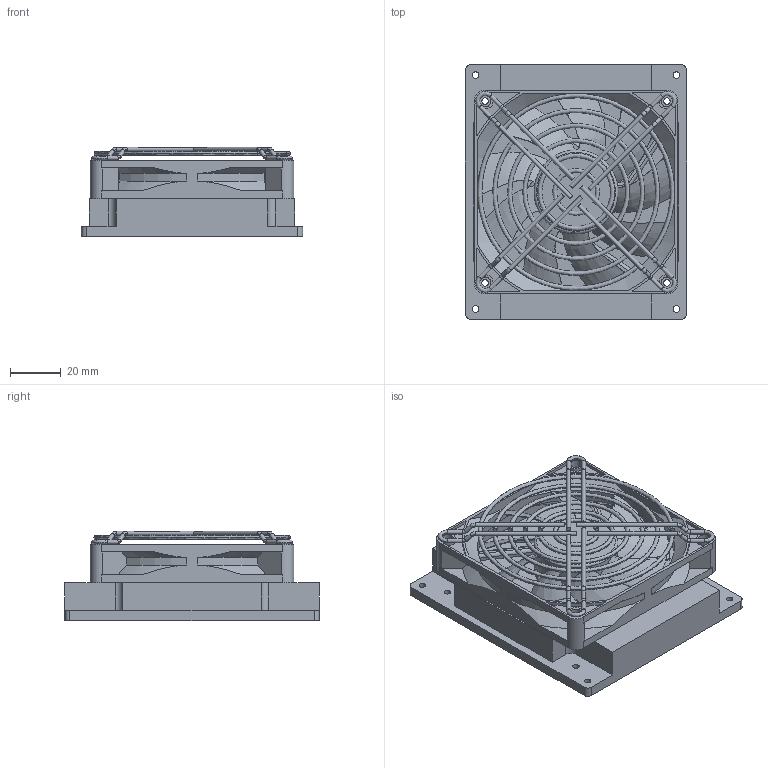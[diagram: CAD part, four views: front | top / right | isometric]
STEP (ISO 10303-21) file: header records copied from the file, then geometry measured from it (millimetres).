
FILE_DESCRIPTION(/* description */ (''),/* implementation_level */ '2;1');
FILE_NAME(/* name */ '70861-HF.step',/* time_stamp */ '2026-07-08T10:44:44+02:00',/* author */ (''),/* organization */ (''),/* preprocessor_version */ 'ST-DEVELOPER v20.1',/* originating_system */ 'Autodesk Translation Framework v15.8.0.0',/* authorisation */ '');
FILE_SCHEMA (('AUTOMOTIVE_DESIGN { 1 0 10303 214 3 1 1 }'));
Length unit declared in the file: millimetre
Products named in the file (4): Xaveir_fischer; 100_87_15_mechanical; 80x80x15mm fan; Fingerguard - 80mm
Assembly tree (3 placements, depth 2):
  Xaveir_fischer
    100_87_15_mechanical
    80x80x15mm fan
    Fingerguard - 80mm
Bounding box: 87 x 100 x 35.11 mm (x, y, z)
Volume: 132068.9 mm3; surface area: 56779.9 mm2
Topology: 13 solids, 13 shells, 444 faces, 1142 edges, 730 vertices
Faces by surface type: bspline 142, plane 132, cylinder 131, cone 25, torus 14
Full cylindrical faces by diameter (mm): 1.6 x24, 2.529 x8, 4.6 x4, 31 x1, 33 x1, 77.5 x1
Entity records: 26192 total; most frequent: CARTESIAN_POINT 15836, ORIENTED_EDGE 2284, DIRECTION 1996, EDGE_CURVE 1142, AXIS2_PLACEMENT_3D 817, VERTEX_POINT 730, CIRCLE 504, EDGE_LOOP 482
